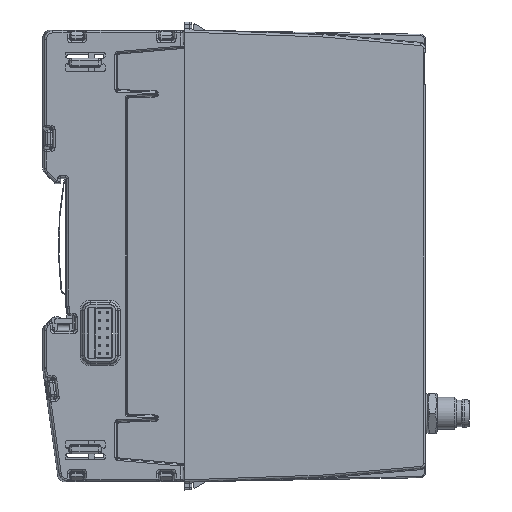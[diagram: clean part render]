
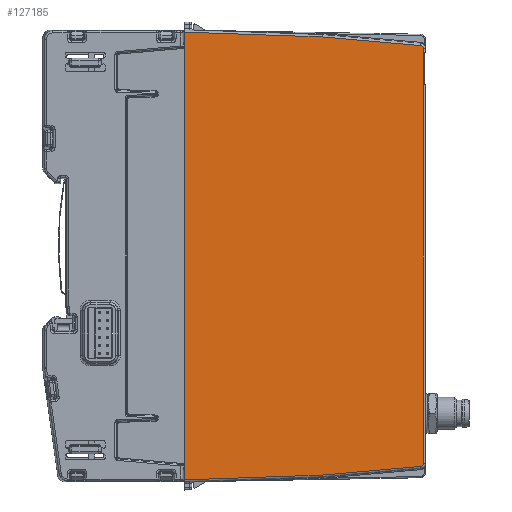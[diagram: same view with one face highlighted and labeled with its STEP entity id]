
A CAD part, left-side view. The second image highlights one B-rep face of the part: STEP entity #127185.
In plain terms, the highlighted planar face has unit normal (-1, -0.018, 0).
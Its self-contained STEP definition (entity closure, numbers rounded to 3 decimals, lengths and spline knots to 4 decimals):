
#3958=PLANE('',#135784);
#9406=FACE_OUTER_BOUND('',#16416,.T.);
#16416=EDGE_LOOP('',(#100557,#100558,#100559,#100560,#100561,#100562,#100563,
#100564,#100565,#100566));
#21473=ELLIPSE('',#135785,0.0315,0.0315);
#21474=ELLIPSE('',#135786,0.0315,0.0315);
#32631=LINE('',#211018,#45216);
#32632=LINE('',#211024,#45217);
#32633=LINE('',#211026,#45218);
#32634=LINE('',#211028,#45219);
#32635=LINE('',#211029,#45220);
#32636=LINE('',#211031,#45221);
#32637=LINE('',#211035,#45222);
#32638=LINE('',#211038,#45223);
#45216=VECTOR('',#159736,39.3701);
#45217=VECTOR('',#159743,39.3701);
#45218=VECTOR('',#159744,39.3701);
#45219=VECTOR('',#159745,39.3701);
#45220=VECTOR('',#159746,39.3701);
#45221=VECTOR('',#159747,39.3701);
#45222=VECTOR('',#159750,39.3701);
#45223=VECTOR('',#159753,39.3701);
#56970=VERTEX_POINT('',#211016);
#56971=VERTEX_POINT('',#211017);
#56972=VERTEX_POINT('',#211022);
#56973=VERTEX_POINT('',#211023);
#56974=VERTEX_POINT('',#211025);
#56975=VERTEX_POINT('',#211027);
#56976=VERTEX_POINT('',#211030);
#56977=VERTEX_POINT('',#211032);
#56978=VERTEX_POINT('',#211034);
#56979=VERTEX_POINT('',#211036);
#72161=EDGE_CURVE('',#56970,#56971,#32631,.T.);
#72164=EDGE_CURVE('',#56972,#56973,#32632,.T.);
#72165=EDGE_CURVE('',#56973,#56974,#32633,.T.);
#72166=EDGE_CURVE('',#56975,#56974,#32634,.T.);
#72167=EDGE_CURVE('',#56975,#56970,#32635,.T.);
#72168=EDGE_CURVE('',#56971,#56976,#32636,.T.);
#72169=EDGE_CURVE('',#56976,#56977,#21473,.T.);
#72170=EDGE_CURVE('',#56977,#56978,#32637,.T.);
#72171=EDGE_CURVE('',#56978,#56979,#21474,.T.);
#72172=EDGE_CURVE('',#56979,#56972,#32638,.T.);
#100557=ORIENTED_EDGE('',*,*,#72164,.T.);
#100558=ORIENTED_EDGE('',*,*,#72165,.T.);
#100559=ORIENTED_EDGE('',*,*,#72166,.F.);
#100560=ORIENTED_EDGE('',*,*,#72167,.T.);
#100561=ORIENTED_EDGE('',*,*,#72161,.T.);
#100562=ORIENTED_EDGE('',*,*,#72168,.T.);
#100563=ORIENTED_EDGE('',*,*,#72169,.T.);
#100564=ORIENTED_EDGE('',*,*,#72170,.T.);
#100565=ORIENTED_EDGE('',*,*,#72171,.T.);
#100566=ORIENTED_EDGE('',*,*,#72172,.T.);
#127185=ADVANCED_FACE('',(#9406),#3958,.T.);
#135784=AXIS2_PLACEMENT_3D('',#211021,#159741,#159742);
#135785=AXIS2_PLACEMENT_3D('',#211033,#159748,#159749);
#135786=AXIS2_PLACEMENT_3D('',#211037,#159751,#159752);
#159736=DIRECTION('',(0.017,-0.999,0.035));
#159741=DIRECTION('center_axis',(-1.,-0.017,
0.));
#159742=DIRECTION('ref_axis',(-0.017,1.,0.));
#159743=DIRECTION('',(-0.017,0.999,0.035));
#159744=DIRECTION('',(0.,0.,-1.));
#159745=DIRECTION('',(0.,0.,1.));
#159746=DIRECTION('',(0.,0.,-1.));
#159747=DIRECTION('',(0.017,-0.996,0.087));
#159748=DIRECTION('center_axis',(-1.,-0.017,
0.));
#159749=DIRECTION('ref_axis',(0.017,-1.,0.));
#159750=DIRECTION('',(0.,0.,1.));
#159751=DIRECTION('center_axis',(-1.,-0.017,
0.));
#159752=DIRECTION('ref_axis',(0.017,-1.,0.));
#159753=DIRECTION('',(-0.017,0.996,0.087));
#211016=CARTESIAN_POINT('',(-0.0227,-0.8686,-4.2421));
#211017=CARTESIAN_POINT('',(0.0007,-2.2063,-4.1954));
#211018=CARTESIAN_POINT('',(-0.0282,-0.5512,-4.2532));
#211021=CARTESIAN_POINT('Origin',(-0.0295,-0.4749,
-2.0669));
#211022=CARTESIAN_POINT('',(0.0007,-2.2063,0.0616));
#211023=CARTESIAN_POINT('',(-0.0227,-0.8686,0.1083));
#211024=CARTESIAN_POINT('',(-0.0282,-0.5512,0.1194));
#211025=CARTESIAN_POINT('',(-0.0227,-0.8686,-0.0312));
#211026=CARTESIAN_POINT('',(-0.0227,-0.8686,0.128));
#211027=CARTESIAN_POINT('',(-0.0227,-0.8686,-4.1027));
#211028=CARTESIAN_POINT('',(-0.0227,-0.8686,-7.5932));
#211029=CARTESIAN_POINT('',(-0.0227,-0.8686,0.128));
#211030=CARTESIAN_POINT('',(0.0174,-3.163,-4.1117));
#211031=CARTESIAN_POINT('',(-0.0261,-0.6728,-4.3296));
#211032=CARTESIAN_POINT('',(0.0179,-3.1918,-4.0803));
#211033=CARTESIAN_POINT('Origin',(0.0173,-3.1603,-4.0803));
#211034=CARTESIAN_POINT('',(0.0179,-3.1918,-0.0535));
#211035=CARTESIAN_POINT('',(0.0179,-3.1918,-0.0535));
#211036=CARTESIAN_POINT('',(0.0174,-3.163,-0.0221));
#211037=CARTESIAN_POINT('Origin',(0.0173,-3.1603,
-0.0535));
#211038=CARTESIAN_POINT('',(-0.0261,-0.6728,0.1957));
